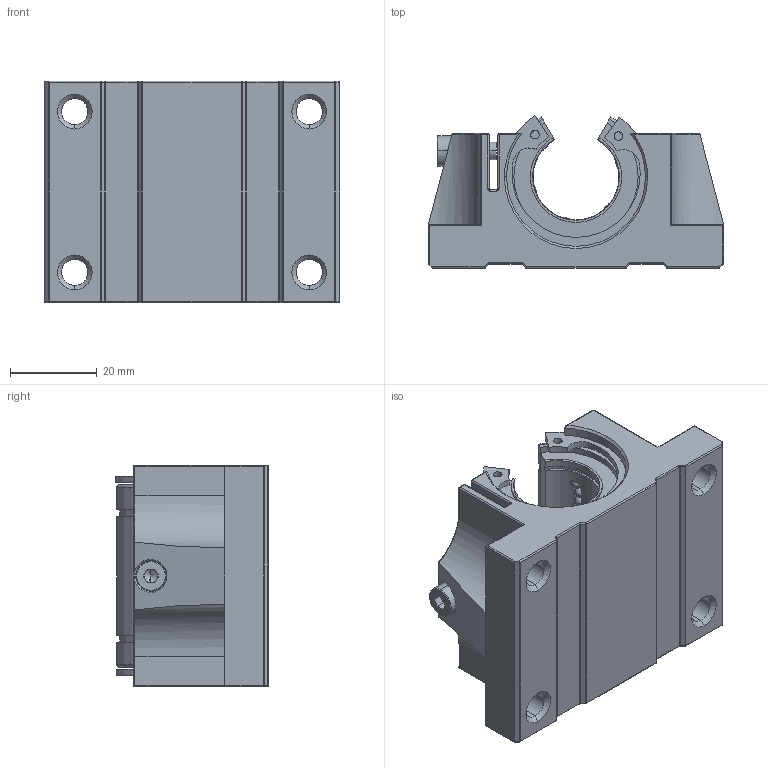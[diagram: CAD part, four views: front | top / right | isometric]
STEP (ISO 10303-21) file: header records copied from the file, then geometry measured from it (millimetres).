
FILE_DESCRIPTION (( 'STEP AP214' ), '1' );
FILE_NAME ('2.7204 Lineaarilaakeri rungolla TBR20UU.STEP', '2025-09-22T08:06:11', ( '' ), ( '' ), 'SwSTEP 2.0', 'SolidWorks 2025', '' );
FILE_SCHEMA (( 'AUTOMOTIVE_DESIGN' ));
Length unit declared in the file: millimetre
Products named in the file (1): 2.7204 Lineaarilaakeri rungolla TBR20UU
Bounding box: 68 x 35.09 x 51 mm (x, y, z)
Surface area: 27538.7 mm2 (no closed solid volume)
Topology: 0 solids, 63 shells, 447 faces, 1280 edges, 812 vertices
Faces by surface type: cylinder 170, sphere 134, plane 70, torus 44, cone 27, bspline 2
Entity records: 17729 total; most frequent: CARTESIAN_POINT 2671, DIRECTION 2372, ORIENTED_EDGE 1898, AXIS2_PLACEMENT_3D 999, EDGE_CURVE 979, VERTEX_POINT 644, CIRCLE 553, EDGE_LOOP 470
